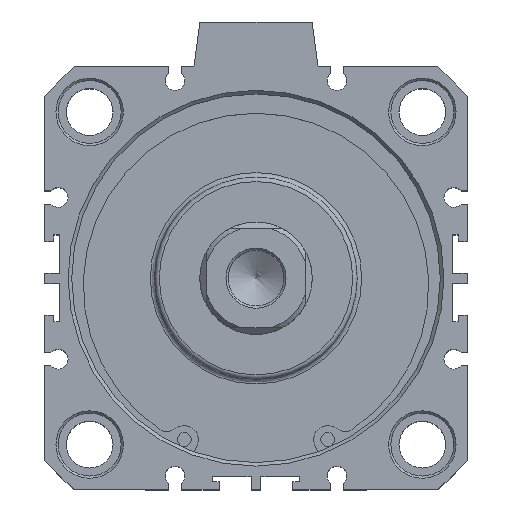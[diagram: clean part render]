
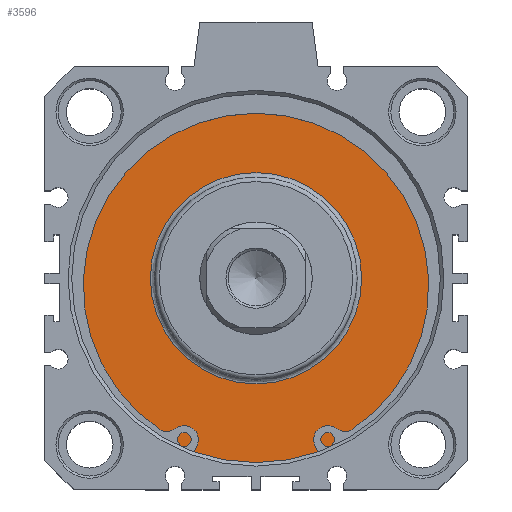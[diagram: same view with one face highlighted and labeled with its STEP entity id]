
A CAD part, top view. The second image highlights one B-rep face of the part: STEP entity #3596.
In plain terms, the highlighted planar face has unit normal (0, 0, 1).
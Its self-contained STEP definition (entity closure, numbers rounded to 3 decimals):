
#3545=CARTESIAN_POINT('',(2.033,24.337,55.6));
#3546=VERTEX_POINT('',#3545);
#3547=CARTESIAN_POINT('',(2.033,0.837,55.6));
#3548=DIRECTION('',(0.0,0.0,1.0));
#3549=DIRECTION('',(0.0,-1.0,0.0));
#3550=AXIS2_PLACEMENT_3D('',#3547,#3548,#3549);
#3551=CIRCLE('',#3550,23.5);
#3552=EDGE_CURVE('',#3546,#3546,#3551,.T.);
#3577=CARTESIAN_POINT('',(2.033,32.587,55.6));
#3578=DIRECTION('',(0.0,0.0,1.0));
#3579=DIRECTION('',(1.0,0.0,0.0));
#3580=AXIS2_PLACEMENT_3D('',#3577,#3578,#3579);
#3581=PLANE('',#3580);
#3582=CARTESIAN_POINT('',(2.033,41.837,55.6));
#3583=VERTEX_POINT('',#3582);
#3584=CARTESIAN_POINT('',(2.033,0.837,55.6));
#3585=DIRECTION('',(0.0,0.0,-1.0));
#3586=DIRECTION('',(0.0,1.0,0.0));
#3587=AXIS2_PLACEMENT_3D('',#3584,#3585,#3586);
#3588=CIRCLE('',#3587,41.);
#3589=EDGE_CURVE('',#3583,#3583,#3588,.T.);
#3590=ORIENTED_EDGE('',*,*,#3589,.F.);
#3591=EDGE_LOOP('',(#3590));
#3592=FACE_OUTER_BOUND('',#3591,.T.);
#3593=ORIENTED_EDGE('',*,*,#3552,.F.);
#3594=EDGE_LOOP('',(#3593));
#3595=FACE_BOUND('',#3594,.T.);
#3596=ADVANCED_FACE('',(#3592,#3595),#3581,.T.);
